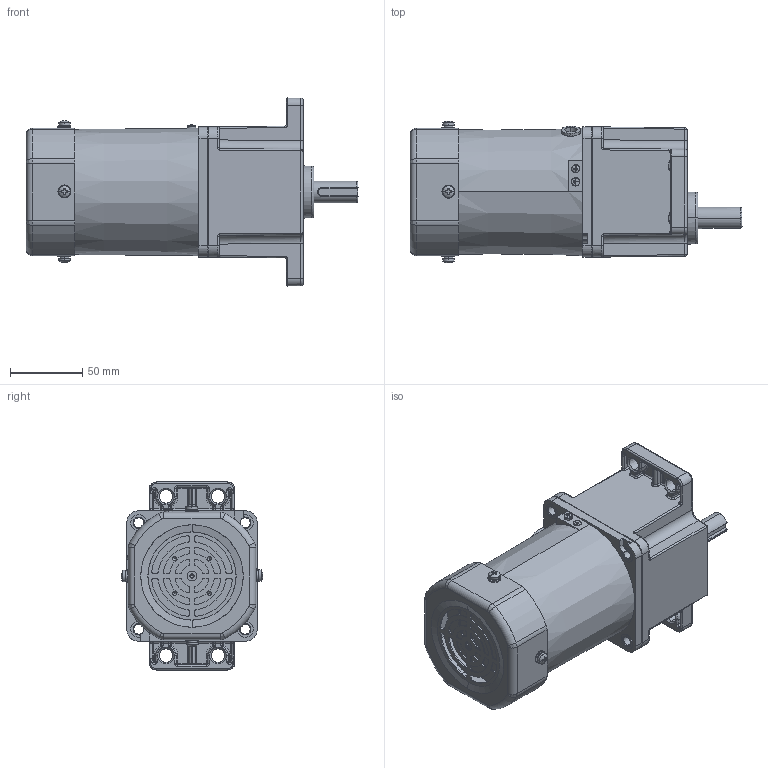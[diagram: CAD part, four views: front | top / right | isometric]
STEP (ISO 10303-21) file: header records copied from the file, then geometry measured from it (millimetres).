
FILE_DESCRIPTION (( 'STEP AP203' ), '1' );
FILE_NAME ('5RK60GU-CF(5GU3K-200K).STEP', '2023-08-08T06:12:00', ( 'Windows User' ), ( 'P R C' ), 'SwSTEP 2.0', 'SolidWorks 2019', '' );
FILE_SCHEMA (( 'CONFIG_CONTROL_DESIGN' ));
Length unit declared in the file: millimetre
Products named in the file (10): 90FZ^5IK40A-CF_5RK60GU-CF(5GU3K-200K)(2)_5RK60GU-CF(5GU3K-200K); M3^5IK40A-C_5IK40A-CF_5RK60GU-CF(5GU3K-200K)(2)_5RK60GU-CF(5GU3K-200K); 5IK40A-CF^5RK60GU-CF(5GU3K-200K)(2)_5RK60GU-CF(5GU3K-200K); 5IK40A-C.stp^5IK40A-C_5IK40A-CF_5RK60GU-CF(5GU3K-200K)(2)_5RK60GU-CF(5GU3K-200K); 5IK40A-C^5IK40A-CF_5RK60GU-CF(5GU3K-200K)(2)_5RK60GU-CF(5GU3K-200K); 5RK60GU-CF(5GU3K-200K); ^_5GU3K-200K_5RK60GU-CF(5GU3K-200K)(2)_5RK60GU-CF(5GU3K-200K); 5GU3K-200K^5RK60GU-CF(5GU3K-200K)(2)_5RK60GU-CF(5GU3K-200K); ^5GU3K-200K_5RK60GU-CF(5GU3K-200K)(2)_5RK60GU-CF(5GU3K-200K); 5RK60GU-CF(5GU3K-200K)(2)^5RK60GU-CF(5GU3K-200K)
Assembly tree (9 placements, depth 5):
  5RK60GU-CF(5GU3K-200K)
    5RK60GU-CF(5GU3K-200K)(2)^5RK60GU-CF(5GU3K-200K)
      5IK40A-CF^5RK60GU-CF(5GU3K-200K)(2)_5RK60GU-CF(5GU3K-200K)
        5IK40A-C^5IK40A-CF_5RK60GU-CF(5GU3K-200K)(2)_5RK60GU-CF(5GU3K-200K)
          5IK40A-C.stp^5IK40A-C_5IK40A-CF_5RK60GU-CF(5GU3K-200K)(2)_5RK60GU-CF(5GU3K-200K)
          M3^5IK40A-C_5IK40A-CF_5RK60GU-CF(5GU3K-200K)(2)_5RK60GU-CF(5GU3K-200K)
        90FZ^5IK40A-CF_5RK60GU-CF(5GU3K-200K)(2)_5RK60GU-CF(5GU3K-200K)
      5GU3K-200K^5RK60GU-CF(5GU3K-200K)(2)_5RK60GU-CF(5GU3K-200K)
        ^5GU3K-200K_5RK60GU-CF(5GU3K-200K)(2)_5RK60GU-CF(5GU3K-200K)
          ^_5GU3K-200K_5RK60GU-CF(5GU3K-200K)(2)_5RK60GU-CF(5GU3K-200K)
Bounding box: 229.5 x 98.11 x 129.97 mm (x, y, z)
Volume: 1159526.3 mm3; surface area: 131179.4 mm2
Topology: 17 solids, 17 shells, 1128 faces, 2800 edges, 1677 vertices
Faces by surface type: cylinder 454, plane 280, cone 160, bspline 115, torus 67, sphere 52
Entity records: 41644 total; most frequent: CARTESIAN_POINT 14392, DIRECTION 5626, ORIENTED_EDGE 5462, EDGE_CURVE 2731, AXIS2_PLACEMENT_3D 2265, VERTEX_POINT 1676, CIRCLE 1235, EDGE_LOOP 1233
